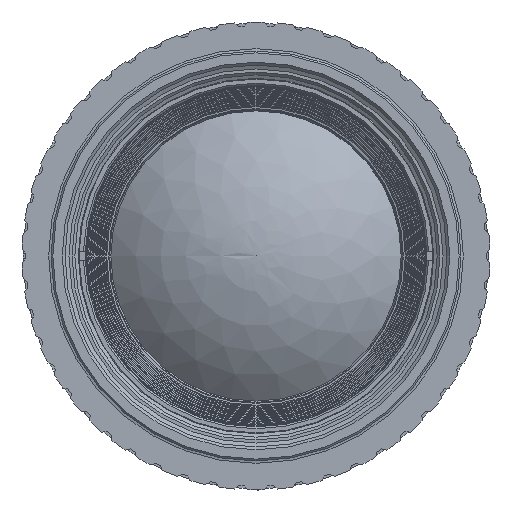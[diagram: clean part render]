
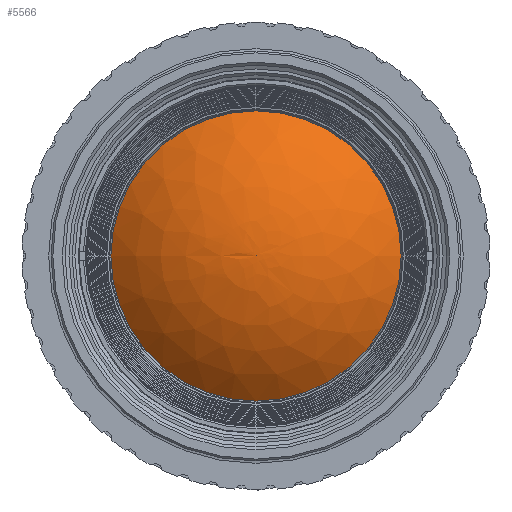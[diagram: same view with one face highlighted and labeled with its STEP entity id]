
A CAD part, left-side view. The second image highlights one B-rep face of the part: STEP entity #5566.
In plain terms, the highlighted face is a revolution surface.
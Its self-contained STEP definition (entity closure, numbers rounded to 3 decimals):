
#3284=SURFACE_OF_REVOLUTION('',#3290,#3287);
#3287=AXIS1_PLACEMENT('',#14824,#12462);
#3290=B_SPLINE_CURVE_WITH_KNOTS('',3,(#14818,#14819,#14820,#14821,#14822,
#14823),.UNSPECIFIED.,.F.,.F.,(4,1,1,4),(0.,0.516,0.774,
1.),.UNSPECIFIED.);
#3293=VERTEX_LOOP('',#9153);
#5566=ADVANCED_FACE('',(#6060,#6061),#3284,.F.);
#6060=FACE_BOUND('',#3293,.T.);
#6061=FACE_BOUND('',#6337,.T.);
#6337=EDGE_LOOP('',(#7092));
#7092=ORIENTED_EDGE('',*,*,#9859,.T.);
#9141=VERTEX_POINT('',#14758);
#9153=VERTEX_POINT('',#14817);
#9859=EDGE_CURVE('',#9141,#9141,#10832,.T.);
#10832=CIRCLE('',#11258,15.5);
#11258=AXIS2_PLACEMENT_3D('',#14757,#12380,#12381);
#12380=DIRECTION('',(-1.,0.,0.));
#12381=DIRECTION('',(0.,0.,1.));
#12462=DIRECTION('',(-1.,0.,0.));
#14757=CARTESIAN_POINT('',(6.077,0.,0.));
#14758=CARTESIAN_POINT('',(6.077,0.,15.5));
#14817=CARTESIAN_POINT('',(0.,0.,0.));
#14818=CARTESIAN_POINT('',(0.,0.,0.));
#14819=CARTESIAN_POINT('',(0.,2.665,0.));
#14820=CARTESIAN_POINT('',(0.671,6.663,0.));
#14821=CARTESIAN_POINT('',(3.147,11.829,0.));
#14822=CARTESIAN_POINT('',(4.991,14.331,0.));
#14823=CARTESIAN_POINT('',(6.077,15.5,0.));
#14824=CARTESIAN_POINT('',(0.,0.,0.));
